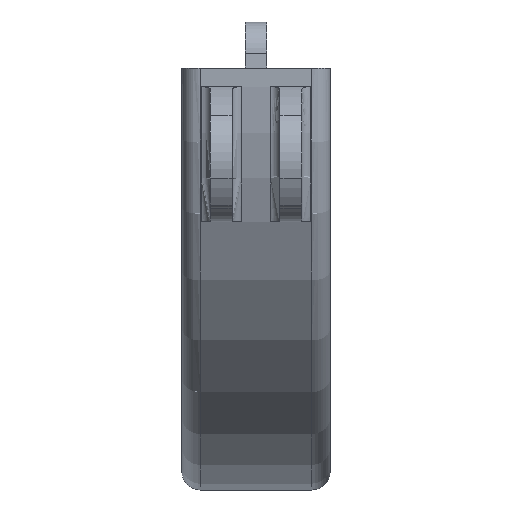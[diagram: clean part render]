
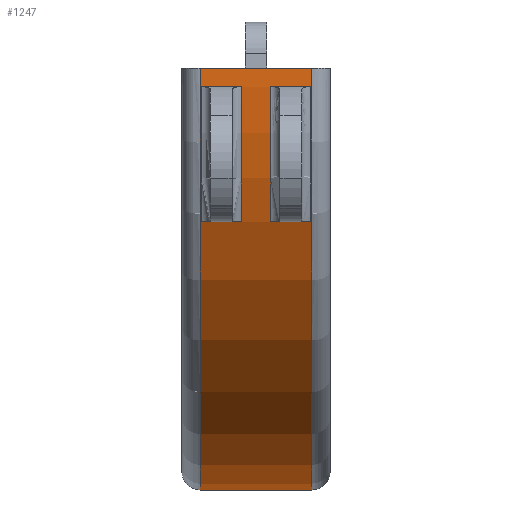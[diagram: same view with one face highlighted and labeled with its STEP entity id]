
A CAD part, left-side view. The second image highlights one B-rep face of the part: STEP entity #1247.
In plain terms, the highlighted cylindrical face has radius 47 mm (diameter 94 mm), a partial arc.
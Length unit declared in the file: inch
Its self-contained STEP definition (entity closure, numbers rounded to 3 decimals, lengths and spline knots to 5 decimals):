
#45 = EDGE_CURVE ( 'NONE', #1791, #1527, #1283, .T. ) ;
#64 = CARTESIAN_POINT ( 'NONE',  ( 1.84945, 0.23622, -0.05906 ) ) ;
#75 = VERTEX_POINT ( 'NONE', #1856 ) ;
#82 = VECTOR ( 'NONE', #1079, 39.37008 ) ;
#101 = CARTESIAN_POINT ( 'NONE',  ( 0., 0.06201, 0. ) ) ;
#115 = CARTESIAN_POINT ( 'NONE',  ( -1.70833, 0.1939, -0.71103 ) ) ;
#124 = DIRECTION ( 'NONE',  ( 0., 0., 1. ) ) ;
#126 = CIRCLE ( 'NONE', #1221, 1.85039 ) ;
#137 = EDGE_CURVE ( 'NONE', #1778, #1082, #522, .T. ) ;
#140 = CARTESIAN_POINT ( 'NONE',  ( 1.84945, 0.36811, -0.05906 ) ) ;
#148 = LINE ( 'NONE', #140, #1488 ) ;
#169 = VERTEX_POINT ( 'NONE', #1576 ) ;
#208 = EDGE_LOOP ( 'NONE', ( #776, #1610, #1378, #1678, #1704, #1384, #354, #1227 ) ) ;
#223 = CIRCLE ( 'NONE', #482, 1.85039 ) ;
#226 = CARTESIAN_POINT ( 'NONE',  ( 0., -0.06201, 0. ) ) ;
#233 = DIRECTION ( 'NONE',  ( 0., 1., 0. ) ) ;
#252 = EDGE_LOOP ( 'NONE', ( #1230, #991, #508, #676 ) ) ;
#279 = FACE_OUTER_BOUND ( 'NONE', #208, .T. ) ;
#289 = CARTESIAN_POINT ( 'NONE',  ( 1.8122, 0.04626, -0.37402 ) ) ;
#292 = EDGE_CURVE ( 'NONE', #1134, #1655, #148, .T. ) ;
#305 = LINE ( 'NONE', #1804, #82 ) ;
#306 = VERTEX_POINT ( 'NONE', #563 ) ;
#309 = DIRECTION ( 'NONE',  ( 0., 0., -1. ) ) ;
#317 = CIRCLE ( 'NONE', #749, 1.85039 ) ;
#342 = AXIS2_PLACEMENT_3D ( 'NONE', #434, #1161, #890 ) ;
#354 = ORIENTED_EDGE ( 'NONE', *, *, #1865, .T. ) ;
#380 = CARTESIAN_POINT ( 'NONE',  ( -1.84526, 0.1939, -0.1378 ) ) ;
#383 = CARTESIAN_POINT ( 'NONE',  ( 0., 0.23622, 0. ) ) ;
#412 = CARTESIAN_POINT ( 'NONE',  ( 1.84945, -0.23622, -0.05906 ) ) ;
#420 = DIRECTION ( 'NONE',  ( 0., -1., 0. ) ) ;
#434 = CARTESIAN_POINT ( 'NONE',  ( 0., 0.23327, 0. ) ) ;
#461 = EDGE_LOOP ( 'NONE', ( #595, #1248, #1915, #1896 ) ) ;
#469 = CARTESIAN_POINT ( 'NONE',  ( -1.84945, 0.23622, -0.05906 ) ) ;
#482 = AXIS2_PLACEMENT_3D ( 'NONE', #1484, #1328, #1184 ) ;
#484 = EDGE_CURVE ( 'NONE', #1527, #1778, #305, .T. ) ;
#508 = ORIENTED_EDGE ( 'NONE', *, *, #1898, .F. ) ;
#522 = CIRCLE ( 'NONE', #811, 1.85039 ) ;
#536 = DIRECTION ( 'NONE',  ( 0., -1., 0. ) ) ;
#549 = DIRECTION ( 'NONE',  ( 0., 0., 1. ) ) ;
#563 = CARTESIAN_POINT ( 'NONE',  ( -1.84526, 0.23327, -0.1378 ) ) ;
#565 = VECTOR ( 'NONE', #1688, 39.37008 ) ;
#566 = FACE_BOUND ( 'NONE', #461, .T. ) ;
#568 = DIRECTION ( 'NONE',  ( 0., 1., 0. ) ) ;
#576 = LINE ( 'NONE', #115, #1436 ) ;
#583 = LINE ( 'NONE', #742, #590 ) ;
#590 = VECTOR ( 'NONE', #1057, 39.37008 ) ;
#595 = ORIENTED_EDGE ( 'NONE', *, *, #646, .T. ) ;
#646 = EDGE_CURVE ( 'NONE', #169, #1755, #1323, .T. ) ;
#666 = EDGE_CURVE ( 'NONE', #1919, #1134, #317, .T. ) ;
#676 = ORIENTED_EDGE ( 'NONE', *, *, #45, .T. ) ;
#690 = DIRECTION ( 'NONE',  ( 0., 0., 1. ) ) ;
#711 = DIRECTION ( 'NONE',  ( 0., -1., 0. ) ) ;
#719 = CARTESIAN_POINT ( 'NONE',  ( -1.84945, -0.23622, -0.05906 ) ) ;
#731 = CARTESIAN_POINT ( 'NONE',  ( 0., 0.08563, 0. ) ) ;
#732 = CYLINDRICAL_SURFACE ( 'NONE', #985, 1.85039 ) ;
#739 = EDGE_CURVE ( 'NONE', #800, #1391, #126, .T. ) ;
#742 = CARTESIAN_POINT ( 'NONE',  ( -1.84945, 0.36811, -0.05906 ) ) ;
#749 = AXIS2_PLACEMENT_3D ( 'NONE', #1300, #536, #124 ) ;
#764 = EDGE_CURVE ( 'NONE', #75, #306, #941, .T. ) ;
#768 = EDGE_CURVE ( 'NONE', #1391, #1861, #583, .T. ) ;
#776 = ORIENTED_EDGE ( 'NONE', *, *, #1682, .T. ) ;
#800 = VERTEX_POINT ( 'NONE', #64 ) ;
#811 = AXIS2_PLACEMENT_3D ( 'NONE', #226, #233, #1156 ) ;
#822 = CIRCLE ( 'NONE', #1945, 1.85039 ) ;
#855 = LINE ( 'NONE', #1949, #1369 ) ;
#887 = DIRECTION ( 'NONE',  ( 0., 1., 0. ) ) ;
#890 = DIRECTION ( 'NONE',  ( 0., 0., 1. ) ) ;
#896 = EDGE_CURVE ( 'NONE', #306, #169, #1027, .T. ) ;
#908 = AXIS2_PLACEMENT_3D ( 'NONE', #101, #1452, #549 ) ;
#941 = CIRCLE ( 'NONE', #342, 1.85039 ) ;
#985 = AXIS2_PLACEMENT_3D ( 'NONE', #1337, #1482, #1173 ) ;
#991 = ORIENTED_EDGE ( 'NONE', *, *, #137, .T. ) ;
#1018 = CARTESIAN_POINT ( 'NONE',  ( 1.84945, 0.36811, -0.05906 ) ) ;
#1027 = LINE ( 'NONE', #380, #1877 ) ;
#1034 = DIRECTION ( 'NONE',  ( 0., -1., 0. ) ) ;
#1057 = DIRECTION ( 'NONE',  ( 0., -1., 0. ) ) ;
#1058 = CARTESIAN_POINT ( 'NONE',  ( -1.70833, 0.06201, -0.71103 ) ) ;
#1071 = DIRECTION ( 'NONE',  ( 0., -1., 0. ) ) ;
#1079 = DIRECTION ( 'NONE',  ( 0., 1., 0. ) ) ;
#1082 = VERTEX_POINT ( 'NONE', #1515 ) ;
#1085 = VECTOR ( 'NONE', #420, 39.37008 ) ;
#1122 = DIRECTION ( 'NONE',  ( 0., -1., 0. ) ) ;
#1134 = VERTEX_POINT ( 'NONE', #1741 ) ;
#1149 = VERTEX_POINT ( 'NONE', #1911 ) ;
#1156 = DIRECTION ( 'NONE',  ( 0., 0., -1. ) ) ;
#1161 = DIRECTION ( 'NONE',  ( 0., 1., 0. ) ) ;
#1173 = DIRECTION ( 'NONE',  ( 0., 0., 1. ) ) ;
#1176 = CARTESIAN_POINT ( 'NONE',  ( 1.84945, 0.08563, -0.05906 ) ) ;
#1184 = DIRECTION ( 'NONE',  ( 0., 0., 1. ) ) ;
#1221 = AXIS2_PLACEMENT_3D ( 'NONE', #383, #1295, #690 ) ;
#1227 = ORIENTED_EDGE ( 'NONE', *, *, #1690, .T. ) ;
#1230 = ORIENTED_EDGE ( 'NONE', *, *, #484, .T. ) ;
#1247 = ADVANCED_FACE ( 'NONE', ( #566, #1458, #279 ), #732, .T. ) ;
#1248 = ORIENTED_EDGE ( 'NONE', *, *, #1659, .F. ) ;
#1283 = CIRCLE ( 'NONE', #1872, 1.85039 ) ;
#1295 = DIRECTION ( 'NONE',  ( 0., 1., 0. ) ) ;
#1300 = CARTESIAN_POINT ( 'NONE',  ( 0., -0.08563, 0. ) ) ;
#1319 = CARTESIAN_POINT ( 'NONE',  ( 0., -0.23327, 0. ) ) ;
#1323 = CIRCLE ( 'NONE', #908, 1.85039 ) ;
#1328 = DIRECTION ( 'NONE',  ( 0., 1., 0. ) ) ;
#1337 = CARTESIAN_POINT ( 'NONE',  ( 0., 0.36811, 0. ) ) ;
#1369 = VECTOR ( 'NONE', #568, 39.37008 ) ;
#1378 = ORIENTED_EDGE ( 'NONE', *, *, #292, .T. ) ;
#1384 = ORIENTED_EDGE ( 'NONE', *, *, #739, .F. ) ;
#1391 = VERTEX_POINT ( 'NONE', #469 ) ;
#1436 = VECTOR ( 'NONE', #711, 39.37008 ) ;
#1452 = DIRECTION ( 'NONE',  ( 0., -1., 0. ) ) ;
#1458 = FACE_BOUND ( 'NONE', #252, .T. ) ;
#1475 = CARTESIAN_POINT ( 'NONE',  ( -1.70833, -0.06201, -0.71103 ) ) ;
#1482 = DIRECTION ( 'NONE',  ( 0., 1., 0. ) ) ;
#1484 = CARTESIAN_POINT ( 'NONE',  ( 0., -0.23622, 0. ) ) ;
#1488 = VECTOR ( 'NONE', #1071, 39.37008 ) ;
#1515 = CARTESIAN_POINT ( 'NONE',  ( -1.84526, -0.06201, -0.1378 ) ) ;
#1527 = VERTEX_POINT ( 'NONE', #1622 ) ;
#1542 = DIRECTION ( 'NONE',  ( 0., 0., 1. ) ) ;
#1576 = CARTESIAN_POINT ( 'NONE',  ( -1.84526, 0.06201, -0.1378 ) ) ;
#1610 = ORIENTED_EDGE ( 'NONE', *, *, #666, .T. ) ;
#1622 = CARTESIAN_POINT ( 'NONE',  ( -1.70833, -0.23327, -0.71103 ) ) ;
#1646 = CARTESIAN_POINT ( 'NONE',  ( 1.8122, -0.08563, -0.37402 ) ) ;
#1655 = VERTEX_POINT ( 'NONE', #412 ) ;
#1659 = EDGE_CURVE ( 'NONE', #75, #1755, #576, .T. ) ;
#1678 = ORIENTED_EDGE ( 'NONE', *, *, #1881, .T. ) ;
#1682 = EDGE_CURVE ( 'NONE', #1149, #1919, #1938, .T. ) ;
#1688 = DIRECTION ( 'NONE',  ( 0., -1., 0. ) ) ;
#1690 = EDGE_CURVE ( 'NONE', #1761, #1149, #822, .T. ) ;
#1704 = ORIENTED_EDGE ( 'NONE', *, *, #768, .F. ) ;
#1741 = CARTESIAN_POINT ( 'NONE',  ( 1.84945, -0.08563, -0.05906 ) ) ;
#1755 = VERTEX_POINT ( 'NONE', #1058 ) ;
#1761 = VERTEX_POINT ( 'NONE', #1176 ) ;
#1778 = VERTEX_POINT ( 'NONE', #1475 ) ;
#1791 = VERTEX_POINT ( 'NONE', #1960 ) ;
#1804 = CARTESIAN_POINT ( 'NONE',  ( -1.70833, -0.1939, -0.71103 ) ) ;
#1816 = LINE ( 'NONE', #1018, #1085 ) ;
#1856 = CARTESIAN_POINT ( 'NONE',  ( -1.70833, 0.23327, -0.71103 ) ) ;
#1861 = VERTEX_POINT ( 'NONE', #719 ) ;
#1865 = EDGE_CURVE ( 'NONE', #800, #1761, #1816, .T. ) ;
#1872 = AXIS2_PLACEMENT_3D ( 'NONE', #1319, #1034, #309 ) ;
#1877 = VECTOR ( 'NONE', #1122, 39.37008 ) ;
#1881 = EDGE_CURVE ( 'NONE', #1655, #1861, #223, .T. ) ;
#1896 = ORIENTED_EDGE ( 'NONE', *, *, #896, .T. ) ;
#1898 = EDGE_CURVE ( 'NONE', #1791, #1082, #855, .T. ) ;
#1911 = CARTESIAN_POINT ( 'NONE',  ( 1.8122, 0.08563, -0.37402 ) ) ;
#1915 = ORIENTED_EDGE ( 'NONE', *, *, #764, .T. ) ;
#1919 = VERTEX_POINT ( 'NONE', #1646 ) ;
#1938 = LINE ( 'NONE', #289, #565 ) ;
#1945 = AXIS2_PLACEMENT_3D ( 'NONE', #731, #887, #1542 ) ;
#1949 = CARTESIAN_POINT ( 'NONE',  ( -1.84526, -0.1939, -0.1378 ) ) ;
#1960 = CARTESIAN_POINT ( 'NONE',  ( -1.84526, -0.23327, -0.1378 ) ) ;
